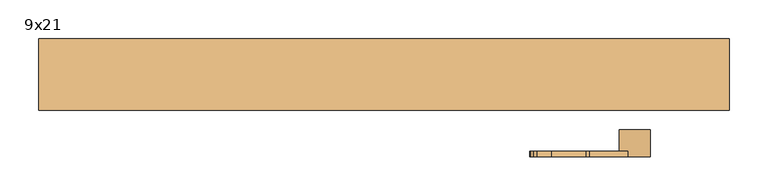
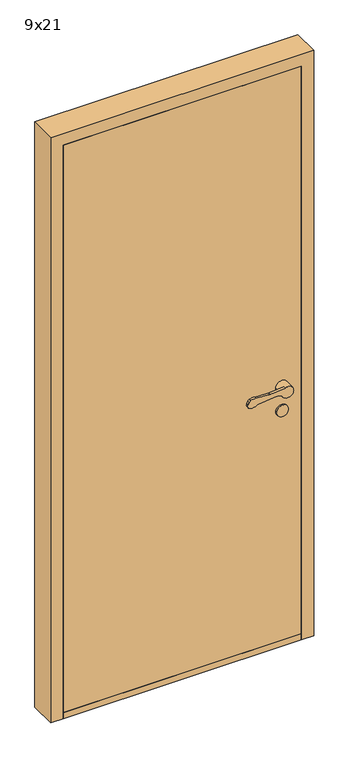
"""IFC4 building model written with IfcOpenShell, lengths in millimetres: door geometry, Innerdør Slett (Diplomat) : 9x21."""

from ifc_helpers import new_model, si_unit, point, frame, frame_2d, origin, origin_with_axes, place, context, project, spatial, polyline, circle_curve, trimmed, segment, composite_curve, outline, extrude, source, transform, mapped, element, save
from ifc_brep_helpers import plane_surface, cylinder_surface, revolved_surface, advanced_brep


def door_9x21_ce0798c1(model_context):
    return source(origin(), model_context, "Body", "SolidModel", [
        advanced_brep(
        [(343.9611305, 45.0, 949.1175955), (338.8520664, 45.0, 949.9496913), (276.0476109, 45.0, 943.6260011), (246.721536, 45.0, 938.7393398), (241.8691983, 45.0, 951.8913379), (245.505009, 45.0, 959.9624074), (250.3175669, 45.0, 964.8810513), (268.8963175, 45.0, 967.2639242), (313.6202158, 45.0, 964.1804415), (318.6891233, 45.0, 964.26032), (367.2687793, 45.0, 969.1517356), (396.379633, 45.0, 951.3474568), (358.3841161, 45.0, 942.6204086), (318.6891233, 37.8915284, 964.26032), (313.6202158, 37.8915284, 964.1804415), (268.8963175, 37.8915284, 967.2639242), (250.3175669, 37.8915284, 964.8810513), (245.505009, 37.8915284, 959.9624074), (241.8691983, 37.8915284, 951.8913379), (246.721536, 37.8915284, 938.7393398), (276.0476109, 37.8915284, 943.6260011), (338.8520664, 37.8915284, 949.9496913), (343.9611305, 37.8915284, 949.1175955), (358.3841161, 37.8915284, 942.6204086), (356.379633, 37.8915284, 951.3474568), (367.2687793, 37.8915284, 969.1517356), (396.379633, 10.0, 951.3474568), (356.379633, 10.0, 951.3474568)],
        [
            (0, 1, circle_curve(frame((339.8538865, 45.0, 940.0), z_axis=(0.0, -1.0, 0.0), x_axis=(-0.9949691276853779, 0.0, -0.10018200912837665)), 10.0)),
            (1, 2),
            (2, 3, circle_curve(frame((257.8569644, 45.0, 962.352734), z_axis=(0.0, 1.0, 0.0), x_axis=(-0.9949691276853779, 0.0, -0.10018200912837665)), 26.1072815)),
            (3, 4, circle_curve(frame((250.9867937, 45.0, 947.7840939), z_axis=(0.0, 1.0, 0.0), x_axis=(-0.9949691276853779, 0.0, -0.10018200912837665)), 10.0)),
            (4, 5),
            (5, 6, circle_curve(frame((254.6226045, 45.0, 955.8551634), z_axis=(0.0, 1.0, 0.0), x_axis=(-0.9949691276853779, 0.0, -0.10018200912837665)), 10.0)),
            (6, 7, circle_curve(frame((263.2326797, 45.0, 937.8033877), z_axis=(0.0, 1.0, 0.0), x_axis=(-0.9949691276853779, 0.0, -0.10018200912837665)), 30.0)),
            (7, 8),
            (8, 9, circle_curve(frame((315.683663, 45.0, 994.1093938), z_axis=(0.0, -1.0, 0.0), x_axis=(-0.9949691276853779, 0.0, -0.10018200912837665)), 30.0)),
            (9, 10),
            (10, 11, circle_curve(frame((376.379633, 45.0, 951.3474568), z_axis=(0.0, 1.0, 0.0), x_axis=(-1.0, 0.0, 0.0)), 20.0)),
            (11, 12, circle_curve(frame((376.379633, 45.0, 951.3474568), z_axis=(0.0, 1.0, 0.0), x_axis=(-1.0, 0.0, 0.0)), 20.0)),
            (12, 0),
            (13, 14, circle_curve(frame((315.683663, 37.8915284, 994.1093938), z_axis=(0.0, 1.0, 0.0), x_axis=(-0.9949691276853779, 0.0, -0.10018200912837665)), 30.0)),
            (14, 15),
            (15, 16, circle_curve(frame((263.2326797, 37.8915284, 937.8033877), z_axis=(0.0, -1.0, 0.0), x_axis=(-0.9949691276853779, 0.0, -0.10018200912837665)), 30.0)),
            (16, 17, circle_curve(frame((254.6226045, 37.8915284, 955.8551634), z_axis=(0.0, -1.0, 0.0), x_axis=(-0.9949691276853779, 0.0, -0.10018200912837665)), 10.0)),
            (17, 18),
            (18, 19, circle_curve(frame((250.9867937, 37.8915284, 947.7840939), z_axis=(0.0, -1.0, 0.0), x_axis=(-0.9949691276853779, 0.0, -0.10018200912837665)), 10.0)),
            (19, 20, circle_curve(frame((257.8569644, 37.8915284, 962.352734), z_axis=(0.0, -1.0, 0.0), x_axis=(-0.9949691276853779, 0.0, -0.10018200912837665)), 26.1072815)),
            (20, 21),
            (21, 22, circle_curve(frame((339.8538865, 37.8915284, 940.0), z_axis=(0.0, 1.0, 0.0), x_axis=(-0.9949691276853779, 0.0, -0.10018200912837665)), 10.0)),
            (22, 23),
            (23, 24, circle_curve(frame((376.379633, 37.8915284, 951.3474568), z_axis=(0.0, 1.0, 0.0), x_axis=(-1.0, 0.0, 0.0)), 20.0)),
            (24, 25, circle_curve(frame((376.379633, 37.8915284, 951.3474568), z_axis=(0.0, 1.0, 0.0), x_axis=(-1.0, 0.0, 0.0)), 20.0)),
            (25, 13),
            (9, 13),
            (25, 10),
            (22, 0),
            (12, 23),
            (21, 1),
            (20, 2),
            (19, 3),
            (18, 4),
            (17, 5),
            (16, 6),
            (15, 7),
            (14, 8),
            (26, 27, circle_curve(frame((376.379633, 10.0, 951.3474568), z_axis=(0.0, -1.0, 0.0), x_axis=(-1.0, 0.0, 0.0)), 20.0)),
            (27, 26, circle_curve(frame((376.379633, 10.0, 951.3474568), z_axis=(0.0, -1.0, 0.0), x_axis=(-1.0, 0.0, 0.0)), 20.0)),
            (27, 24),
            (11, 26),
        ],
        [
            plane_surface(frame((367.6960588, 45.0, 969.1947577), z_axis=(0.0, 1.0000000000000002, 0.0), x_axis=(0.9949691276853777, 0.0, 0.10018200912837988))),
            plane_surface(frame((367.6960588, 37.8915284, 969.1947577), z_axis=(0.0, -1.0000000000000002, 0.0), x_axis=(-0.9949691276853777, 0.0, -0.10018200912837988))),
            plane_surface(frame((318.6891233, 45.0, 964.26032), z_axis=(-0.10018200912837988, 0.0, 0.9949691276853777), x_axis=(0.0, -1.0, 0.0))),
            plane_surface(frame((376.9687366, 45.0, 934.2485115), z_axis=(-0.41072439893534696, 0.0, -0.91175954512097), x_axis=(0.0, -1.0, 0.0))),
            revolved_surface(polyline([(329.9041952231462, 37.8915284, 938.9981799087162), (329.9041952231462, 45.0, 938.9981799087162)]), (339.8538865, 37.8915284, 940.0), (0.0, -1.0, 0.0)),
            plane_surface(frame((338.8520664, 45.0, 949.9496913), z_axis=(0.10018200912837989, 0.0, -0.9949691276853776), x_axis=(0.0, -1.0, 0.0))),
            cylinder_surface(frame((257.8569644, 37.8915284, 962.352734), z_axis=(0.0, 1.0, 0.0), x_axis=(-0.9949691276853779, 0.0, -0.10018200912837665)), 26.1072815),
            cylinder_surface(frame((250.9867937, 37.8915284, 947.7840939), z_axis=(0.0, 1.0, 0.0), x_axis=(-0.9949691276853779, 0.0, -0.10018200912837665)), 10.0),
            plane_surface(frame((241.8691983, 45.0, 951.8913379), z_axis=(-0.9117595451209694, 0.0, 0.41072439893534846), x_axis=(0.0, -1.0, 0.0))),
            cylinder_surface(frame((254.6226045, 37.8915284, 955.8551634), z_axis=(0.0, 1.0, 0.0), x_axis=(-0.9949691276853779, 0.0, -0.10018200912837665)), 10.0),
            cylinder_surface(frame((263.2326797, 37.8915284, 937.8033877), z_axis=(0.0, 1.0, 0.0), x_axis=(-0.9949691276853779, 0.0, -0.10018200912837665)), 30.0),
            plane_surface(frame((268.8963175, 45.0, 967.2639242), z_axis=(0.06878157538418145, 0.0, 0.9976317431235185), x_axis=(0.0, -1.0, 0.0))),
            revolved_surface(polyline([(285.8345891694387, 37.8915284, 991.1039335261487), (285.8345891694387, 45.0, 991.1039335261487)]), (315.683663, 37.8915284, 994.1093938), (0.0, -1.0, 0.0)),
            plane_surface(frame((356.379633, 10.0, 951.3474568), z_axis=(0.0, -1.0, 0.0), x_axis=(0.0, 0.0, -1.0))),
            cylinder_surface(frame((376.379633, 10.0, 951.3474568), z_axis=(0.0, 1.0, 0.0), x_axis=(-1.0, 0.0, 0.0)), 20.0),
        ],
        [
            (0, [[1, 2, 3, 4, 5, 6, 7, 8, 9, 10, 11, 12, 13]]),
            (1, [[14, 15, 16, 17, 18, 19, 20, 21, 22, 23, 24, 25, 26]]),
            (2, [[27, -26, 28, -10]]),
            (3, [[29, -13, 30, -23]]),
            (4, [[-1, -29, -22, 31]]),
            (5, [[-2, -31, -21, 32]]),
            (6, [[-3, -32, -20, 33]]),
            (7, [[-4, -33, -19, 34]]),
            (8, [[-5, -34, -18, 35]]),
            (9, [[-6, -35, -17, 36]]),
            (10, [[-7, -36, -16, 37]]),
            (11, [[-8, -37, -15, 38]]),
            (12, [[-9, -38, -14, -27]]),
            (13, [[39, 40]]),
            (14, [[-40, 41, -24, -30, -12, 42]]),
            (14, [[-39, -42, -11, -28, -25, -41]]),
        ],
    ),
        extrude(outline(composite_curve([segment(trimmed(circle_curve(frame_2d((866.3474568, 376.379633)), 20.0), [point((866.3474568, 396.379633))], [point((866.3474568, 356.379633))], False, "CARTESIAN"), True, "CONTINUOUS"), segment(trimmed(circle_curve(frame_2d((866.3474568, 376.379633)), 20.0), [point((866.3474568, 356.379633))], [point((866.3474568, 396.379633))], False, "CARTESIAN"), True, "CONTINUOUS")], self_intersect=False)), frame((0.0, 10.0, 0.0), z_axis=(0.0, 1.0, 0.0), x_axis=(0.0, 0.0, 1.0)), (0.0, 0.0, 1.0), 5.0),
        advanced_brep(
        [(343.9611305, -100.0, 949.1175955), (358.3841161, -100.0, 942.6204086), (396.379633, -100.0, 951.3474568), (367.2687793, -100.0, 969.1517356), (318.6891233, -100.0, 964.26032), (313.6202158, -100.0, 964.1804415), (268.8963175, -100.0, 967.2639242), (250.3175669, -100.0, 964.8810513), (245.505009, -100.0, 959.9624074), (241.8691983, -100.0, 951.8913379), (246.721536, -100.0, 938.7393398), (276.0476109, -100.0, 943.6260011), (338.8520664, -100.0, 949.9496913), (318.6891233, -92.8915284, 964.26032), (367.2687793, -92.8915284, 969.1517356), (356.379633, -92.8915284, 951.3474568), (358.3841161, -92.8915284, 942.6204086), (343.9611305, -92.8915284, 949.1175955), (338.8520664, -92.8915284, 949.9496913), (276.0476109, -92.8915284, 943.6260011), (246.721536, -92.8915284, 938.7393398), (241.8691983, -92.8915284, 951.8913379), (245.505009, -92.8915284, 959.9624074), (250.3175669, -92.8915284, 964.8810513), (268.8963175, -92.8915284, 967.2639242), (313.6202158, -92.8915284, 964.1804415), (396.379633, -65.0, 951.3474568), (356.379633, -65.0, 951.3474568)],
        [
            (0, 1),
            (1, 2, circle_curve(frame((376.379633, -100.0, 951.3474568), z_axis=(0.0, -1.0, 0.0), x_axis=(-1.0, 0.0, 0.0)), 20.0)),
            (2, 3, circle_curve(frame((376.379633, -100.0, 951.3474568), z_axis=(0.0, -1.0, 0.0), x_axis=(-1.0, 0.0, 0.0)), 20.0)),
            (3, 4),
            (4, 5, circle_curve(frame((315.683663, -100.0, 994.1093938), z_axis=(0.0, 1.0, 0.0), x_axis=(-0.9949691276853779, 0.0, -0.10018200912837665)), 30.0)),
            (5, 6),
            (6, 7, circle_curve(frame((263.2326797, -100.0, 937.8033877), z_axis=(0.0, -1.0, 0.0), x_axis=(-0.9949691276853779, 0.0, -0.10018200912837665)), 30.0)),
            (7, 8, circle_curve(frame((254.6226045, -100.0, 955.8551634), z_axis=(0.0, -1.0, 0.0), x_axis=(-0.9949691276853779, 0.0, -0.10018200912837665)), 10.0)),
            (8, 9),
            (9, 10, circle_curve(frame((250.9867937, -100.0, 947.7840939), z_axis=(0.0, -1.0, 0.0), x_axis=(-0.9949691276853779, 0.0, -0.10018200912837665)), 10.0)),
            (10, 11, circle_curve(frame((257.8569644, -100.0, 962.352734), z_axis=(0.0, -1.0, 0.0), x_axis=(-0.9949691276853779, 0.0, -0.10018200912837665)), 26.1072815)),
            (11, 12),
            (12, 0, circle_curve(frame((339.8538865, -100.0, 940.0), z_axis=(0.0, 1.0, 0.0), x_axis=(-0.9949691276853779, 0.0, -0.10018200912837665)), 10.0)),
            (13, 14),
            (14, 15, circle_curve(frame((376.379633, -92.8915284, 951.3474568), z_axis=(0.0, -1.0, 0.0), x_axis=(-1.0, 0.0, 0.0)), 20.0)),
            (15, 16, circle_curve(frame((376.379633, -92.8915284, 951.3474568), z_axis=(0.0, -1.0, 0.0), x_axis=(-1.0, 0.0, 0.0)), 20.0)),
            (16, 17),
            (17, 18, circle_curve(frame((339.8538865, -92.8915284, 940.0), z_axis=(0.0, -1.0, 0.0), x_axis=(-0.9949691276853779, 0.0, -0.10018200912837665)), 10.0)),
            (18, 19),
            (19, 20, circle_curve(frame((257.8569644, -92.8915284, 962.352734), z_axis=(0.0, 1.0, 0.0), x_axis=(-0.9949691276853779, 0.0, -0.10018200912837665)), 26.1072815)),
            (20, 21, circle_curve(frame((250.9867937, -92.8915284, 947.7840939), z_axis=(0.0, 1.0, 0.0), x_axis=(-0.9949691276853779, 0.0, -0.10018200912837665)), 10.0)),
            (21, 22),
            (22, 23, circle_curve(frame((254.6226045, -92.8915284, 955.8551634), z_axis=(0.0, 1.0, 0.0), x_axis=(-0.9949691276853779, 0.0, -0.10018200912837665)), 10.0)),
            (23, 24, circle_curve(frame((263.2326797, -92.8915284, 937.8033877), z_axis=(0.0, 1.0, 0.0), x_axis=(-0.9949691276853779, 0.0, -0.10018200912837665)), 30.0)),
            (24, 25),
            (25, 13, circle_curve(frame((315.683663, -92.8915284, 994.1093938), z_axis=(0.0, -1.0, 0.0), x_axis=(-0.9949691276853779, 0.0, -0.10018200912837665)), 30.0)),
            (3, 14),
            (13, 4),
            (16, 1),
            (0, 17),
            (12, 18),
            (11, 19),
            (10, 20),
            (9, 21),
            (8, 22),
            (7, 23),
            (6, 24),
            (5, 25),
            (26, 27, circle_curve(frame((376.379633, -65.0, 951.3474568), z_axis=(0.0, 1.0, 0.0), x_axis=(-1.0, 0.0, 0.0)), 20.0)),
            (27, 26, circle_curve(frame((376.379633, -65.0, 951.3474568), z_axis=(0.0, 1.0, 0.0), x_axis=(-1.0, 0.0, 0.0)), 20.0)),
            (26, 2),
            (15, 27),
        ],
        [
            plane_surface(frame((367.6960588, -100.0, 969.1947577), z_axis=(0.0, -1.0000000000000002, 0.0), x_axis=(0.9949691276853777, 0.0, 0.10018200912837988))),
            plane_surface(frame((367.6960588, -92.8915284, 969.1947577), z_axis=(0.0, 1.0000000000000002, 0.0), x_axis=(-0.9949691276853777, 0.0, -0.10018200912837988))),
            plane_surface(frame((318.6891233, -100.0, 964.26032), z_axis=(-0.10018200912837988, 0.0, 0.9949691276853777), x_axis=(0.0, 1.0, 0.0))),
            plane_surface(frame((376.9687366, -100.0, 934.2485115), z_axis=(-0.41072439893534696, 0.0, -0.91175954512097), x_axis=(0.0, 1.0, 0.0))),
            revolved_surface(polyline([(329.9041952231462, -92.8915284, 938.9981799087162), (329.9041952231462, -100.0, 938.9981799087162)]), (339.8538865, -92.8915284, 940.0), (0.0, 1.0, 0.0)),
            plane_surface(frame((338.8520664, -100.0, 949.9496913), z_axis=(0.10018200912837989, 0.0, -0.9949691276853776), x_axis=(0.0, 1.0, 0.0))),
            cylinder_surface(frame((257.8569644, -92.8915284, 962.352734), z_axis=(0.0, -1.0, 0.0), x_axis=(-0.9949691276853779, 0.0, -0.10018200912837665)), 26.1072815),
            cylinder_surface(frame((250.9867937, -92.8915284, 947.7840939), z_axis=(0.0, -1.0, 0.0), x_axis=(-0.9949691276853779, 0.0, -0.10018200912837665)), 10.0),
            plane_surface(frame((241.8691983, -100.0, 951.8913379), z_axis=(-0.9117595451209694, 0.0, 0.41072439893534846), x_axis=(0.0, 1.0, 0.0))),
            cylinder_surface(frame((254.6226045, -92.8915284, 955.8551634), z_axis=(0.0, -1.0, 0.0), x_axis=(-0.9949691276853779, 0.0, -0.10018200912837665)), 10.0),
            cylinder_surface(frame((263.2326797, -92.8915284, 937.8033877), z_axis=(0.0, -1.0, 0.0), x_axis=(-0.9949691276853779, 0.0, -0.10018200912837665)), 30.0),
            plane_surface(frame((268.8963175, -100.0, 967.2639242), z_axis=(0.06878157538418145, 0.0, 0.9976317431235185), x_axis=(0.0, 1.0, 0.0))),
            revolved_surface(polyline([(285.8345891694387, -92.8915284, 991.1039335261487), (285.8345891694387, -100.0, 991.1039335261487)]), (315.683663, -92.8915284, 994.1093938), (0.0, 1.0, 0.0)),
            plane_surface(frame((356.379633, -65.0, 951.3474568), z_axis=(0.0, 1.0, 0.0), x_axis=(0.0, 0.0, -1.0))),
            cylinder_surface(frame((376.379633, -65.0, 951.3474568), z_axis=(0.0, -1.0, 0.0), x_axis=(-1.0, 0.0, 0.0)), 20.0),
        ],
        [
            (0, [[1, 2, 3, 4, 5, 6, 7, 8, 9, 10, 11, 12, 13]]),
            (1, [[14, 15, 16, 17, 18, 19, 20, 21, 22, 23, 24, 25, 26]]),
            (2, [[-4, 27, -14, 28]]),
            (3, [[-17, 29, -1, 30]]),
            (4, [[31, -18, -30, -13]]),
            (5, [[32, -19, -31, -12]]),
            (6, [[33, -20, -32, -11]]),
            (7, [[34, -21, -33, -10]]),
            (8, [[35, -22, -34, -9]]),
            (9, [[36, -23, -35, -8]]),
            (10, [[37, -24, -36, -7]]),
            (11, [[38, -25, -37, -6]]),
            (12, [[-28, -26, -38, -5]]),
            (13, [[39, 40]]),
            (14, [[41, -2, -29, -16, 42, -39]]),
            (14, [[-42, -15, -27, -3, -41, -40]]),
        ],
    ),
        extrude(outline(composite_curve([segment(trimmed(circle_curve(frame_2d((866.3474568, 376.379633)), 20.0), [point((866.3474568, 396.379633))], [point((866.3474568, 356.379633))], False, "CARTESIAN"), True, "CONTINUOUS"), segment(trimmed(circle_curve(frame_2d((866.3474568, 376.379633)), 20.0), [point((866.3474568, 356.379633))], [point((866.3474568, 396.379633))], False, "CARTESIAN"), True, "CONTINUOUS")], self_intersect=False)), frame((0.0, -70.0, 0.0), z_axis=(0.0, 1.0, 0.0), x_axis=(0.0, 0.0, 1.0)), (0.0, 0.0, 1.0), 5.0),
        extrude(outline(polyline([(456.379633, 52.0), (456.379633, -40.0), (-349.620367, -40.0), (-349.620367, 52.0), (456.379633, 52.0)])), origin_with_axes(), (0.0, 0.0, 1.0), 22.0),
        extrude(outline(polyline([(456.379633, 10.0), (456.379633, -40.0), (-349.620367, -40.0), (-349.620367, 10.0), (456.379633, 10.0)])), frame((0.0, 0.0, 22.0), z_axis=(0.0, 0.0, 1.0), x_axis=(1.0, 0.0, 0.0)), (0.0, 0.0, 1.0), 2031.0),
        extrude(outline(polyline([(0.0, -349.620367), (2053.0, -349.620367), (2053.0, 456.379633), (0.0, 456.379633), (0.0, 498.379633), (2095.0, 498.379633), (2095.0, -391.620367), (0.0, -391.620367), (0.0, -349.620367)])), frame((0.0, -40.0, 0.0), z_axis=(0.0, 1.0, 0.0), x_axis=(0.0, 0.0, 1.0)), (0.0, 0.0, 1.0), 92.0),
    ])


if __name__ == "__main__":
    model = new_model("IFC4")
    model_context = context("Model", 3, world=origin())
    ifc_project = project(units=[si_unit("LENGTHUNIT", "METRE", prefix="MILLI")], contexts=[model_context])
    site = spatial("IfcSite", under=ifc_project)
    building = spatial("IfcBuilding", under=site)
    placement = place(None, origin())
    door_9x21_shape = door_9x21_ce0798c1(model_context)
    element("IfcDoor", 1, ObjectType="Innerdør Slett (Diplomat) : 9x21", at=placement, inside=building, context=model_context, shape_type="MappedRepresentation", body=[
        mapped(door_9x21_shape, transform((0.0, 0.0, 0.0), x_axis=(1.0, 0.0, 0.0), y_axis=(0.0, 1.0, 0.0), z_axis=(0.0, 0.0, 1.0))),
    ])
    save(model, "model.ifc")
